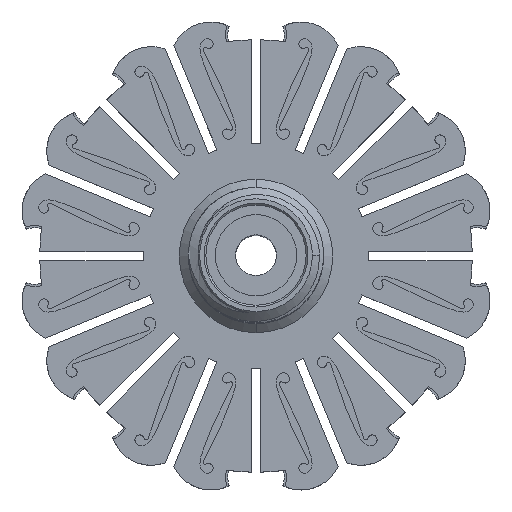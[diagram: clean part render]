
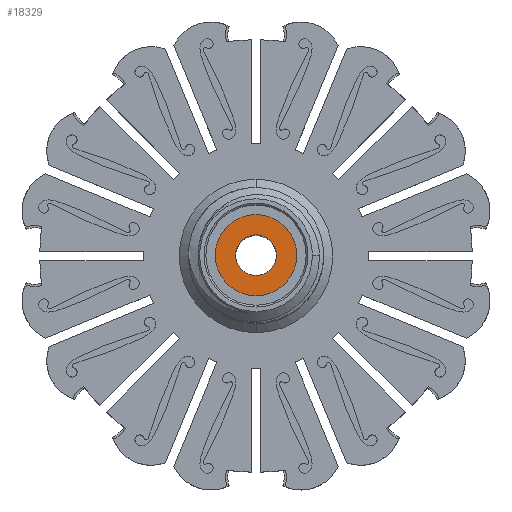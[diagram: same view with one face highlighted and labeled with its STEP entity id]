
A CAD part, top view. The second image highlights one B-rep face of the part: STEP entity #18329.
In plain terms, the highlighted planar face has unit normal (0, 0, 1) as drawn and (0, 1, 0) by its records, which use the part's own axes.
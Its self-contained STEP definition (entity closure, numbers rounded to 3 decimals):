
#3522 = DIRECTION ( 'NONE',  ( 0., 0., 1. ) ) ;
#5756 = EDGE_CURVE ( 'NONE', #60760, #14057, #35677, .T. ) ;
#7053 = EDGE_LOOP ( 'NONE', ( #38009, #10193 ) ) ;
#9301 = VERTEX_POINT ( 'NONE', #11842 ) ;
#9813 = DIRECTION ( 'NONE',  ( 0., -1., 0. ) ) ;
#10193 = ORIENTED_EDGE ( 'NONE', *, *, #25298, .T. ) ;
#11192 = EDGE_CURVE ( 'NONE', #14057, #60760, #19644, .T. ) ;
#11842 = CARTESIAN_POINT ( 'NONE',  ( 0.1, 102.7, -8.9 ) ) ;
#12828 = AXIS2_PLACEMENT_3D ( 'NONE', #32299, #71563, #43834 ) ;
#14057 = VERTEX_POINT ( 'NONE', #27409 ) ;
#14294 = AXIS2_PLACEMENT_3D ( 'NONE', #42744, #9813, #70704 ) ;
#14404 = CARTESIAN_POINT ( 'NONE',  ( 0.1, 102.7, 0.1 ) ) ;
#14643 = PLANE ( 'NONE',  #16097 ) ;
#16097 = AXIS2_PLACEMENT_3D ( 'NONE', #14404, #36462, #58524 ) ;
#18329 = ADVANCED_FACE ( 'NONE', ( #26309, #47069 ), #14643, .T. ) ;
#19644 = CIRCLE ( 'NONE', #56707, 4.5 ) ;
#25298 = EDGE_CURVE ( 'NONE', #9301, #29017, #25787, .T. ) ;
#25787 = CIRCLE ( 'NONE', #12828, 9. ) ;
#26309 = FACE_OUTER_BOUND ( 'NONE', #7053, .T. ) ;
#27409 = CARTESIAN_POINT ( 'NONE',  ( 0.1, 102.7, 4.6 ) ) ;
#29017 = VERTEX_POINT ( 'NONE', #70393 ) ;
#32299 = CARTESIAN_POINT ( 'NONE',  ( 0.1, 102.7, 0.1 ) ) ;
#33004 = EDGE_CURVE ( 'NONE', #29017, #9301, #55446, .T. ) ;
#34111 = EDGE_LOOP ( 'NONE', ( #39714, #52267 ) ) ;
#35677 = CIRCLE ( 'NONE', #14294, 4.5 ) ;
#36462 = DIRECTION ( 'NONE',  ( 0., 1., 0. ) ) ;
#38009 = ORIENTED_EDGE ( 'NONE', *, *, #33004, .T. ) ;
#39714 = ORIENTED_EDGE ( 'NONE', *, *, #5756, .T. ) ;
#42744 = CARTESIAN_POINT ( 'NONE',  ( 0.1, 102.7, 0.1 ) ) ;
#43834 = DIRECTION ( 'NONE',  ( 0., 0., 1. ) ) ;
#47069 = FACE_BOUND ( 'NONE', #34111, .T. ) ;
#52267 = ORIENTED_EDGE ( 'NONE', *, *, #11192, .T. ) ;
#54592 = CARTESIAN_POINT ( 'NONE',  ( 0.1, 102.7, 0.1 ) ) ;
#55446 = CIRCLE ( 'NONE', #58616, 9. ) ;
#56707 = AXIS2_PLACEMENT_3D ( 'NONE', #54592, #66045, #60193 ) ;
#58288 = DIRECTION ( 'NONE',  ( 0., 1., 0. ) ) ;
#58524 = DIRECTION ( 'NONE',  ( 0., 0., 1. ) ) ;
#58616 = AXIS2_PLACEMENT_3D ( 'NONE', #69965, #58288, #3522 ) ;
#60193 = DIRECTION ( 'NONE',  ( 0., 0., 1. ) ) ;
#60760 = VERTEX_POINT ( 'NONE', #71485 ) ;
#66045 = DIRECTION ( 'NONE',  ( 0., -1., 0. ) ) ;
#69965 = CARTESIAN_POINT ( 'NONE',  ( 0.1, 102.7, 0.1 ) ) ;
#70393 = CARTESIAN_POINT ( 'NONE',  ( 0.1, 102.7, 9.1 ) ) ;
#70704 = DIRECTION ( 'NONE',  ( 0., 0., 1. ) ) ;
#71485 = CARTESIAN_POINT ( 'NONE',  ( 0.1, 102.7, -4.4 ) ) ;
#71563 = DIRECTION ( 'NONE',  ( 0., 1., 0. ) ) ;
